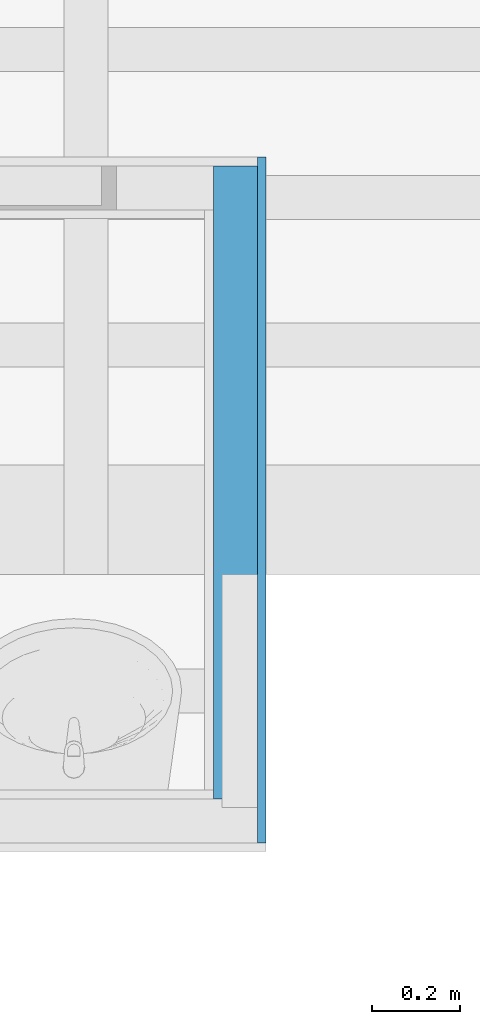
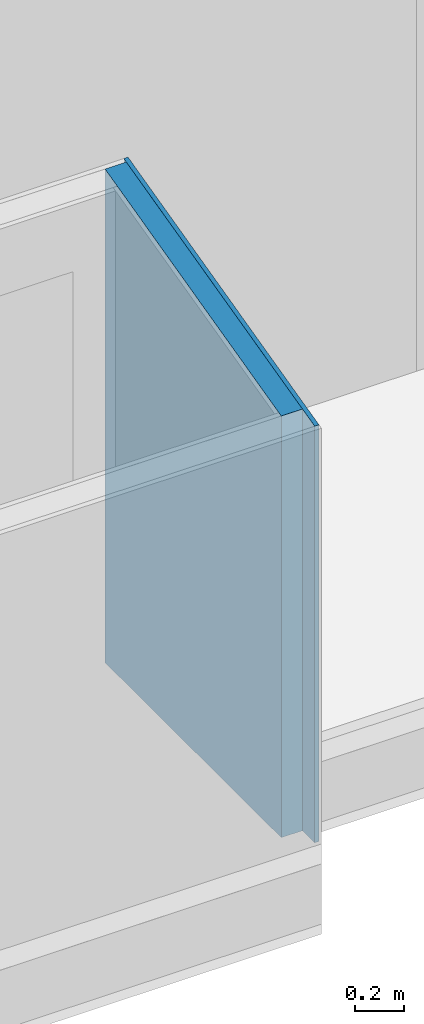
# One storey, part 7 of 13: 2 building element parts, 1 element without a shape of its own.
"""IFC2X3 building model written with IfcOpenShell, lengths in millimetres."""

from ifc_helpers import new_model, entity, si_unit, converted_unit, derived_unit, money_unit, direction, frame, origin_with_axes, place, context, subcontext, project, spatial, polyline, outline, extrude, boolean, faceted_brep, material, type_object, element, aggregate, save


model = new_model("IFC2X3")

# Units and contexts
model_context = context("Model", 3, precision=0.01, world=origin_with_axes(), true_north=direction((0.293984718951, 0.955810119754)))
body_context = subcontext(model_context, "Body", "Model", "MODEL_VIEW")
ifc_project = project(units=[si_unit("LENGTHUNIT", "METRE", prefix="MILLI"), si_unit("AREAUNIT", "SQUARE_METRE"), si_unit("VOLUMEUNIT", "CUBIC_METRE"), converted_unit("PLANEANGLEUNIT", "DEGREE", entity("IfcPlaneAngleMeasure", 0.0174532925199), si_unit("PLANEANGLEUNIT", "RADIAN"), dimensions=[0, 0, 0, 0, 0, 0, 0]), si_unit("SOLIDANGLEUNIT", "STERADIAN"), money_unit("USD"), converted_unit("TIMEUNIT", "Year", entity("IfcTimeMeasure", 31556926.0), si_unit("TIMEUNIT", "SECOND"), dimensions=[0, 0, 1, 0, 0, 0, 0]), si_unit("MASSUNIT", "GRAM", prefix="KILO"), si_unit("THERMODYNAMICTEMPERATUREUNIT", "DEGREE_CELSIUS"), si_unit("LUMINOUSINTENSITYUNIT", "LUMEN"), si_unit("ENERGYUNIT", "JOULE", prefix="MEGA"), derived_unit("THERMALCONDUCTANCEUNIT", [(si_unit("POWERUNIT", "WATT"), 1), (si_unit("LENGTHUNIT", "METRE"), -1), (si_unit("THERMODYNAMICTEMPERATUREUNIT", "KELVIN"), -1)]), derived_unit("SPECIFICHEATCAPACITYUNIT", [(si_unit("ENERGYUNIT", "JOULE"), 1), (si_unit("MASSUNIT", "GRAM", prefix="KILO"), -1), (si_unit("THERMODYNAMICTEMPERATUREUNIT", "KELVIN"), -1)]), derived_unit("MASSDENSITYUNIT", [(si_unit("MASSUNIT", "GRAM", prefix="KILO"), 1), (si_unit("VOLUMEUNIT", "CUBIC_METRE"), -1)])], contexts=[model_context])

# Site, building, storey
site_placement = place(None, origin_with_axes())
site = spatial("IfcSite", under=ifc_project, at=site_placement, Name="Local", CompositionType="ELEMENT")
building_placement = place(site_placement, origin_with_axes())
building = spatial("IfcBuilding", under=site, at=building_placement, Name="Construção", CompositionType="ELEMENT")
storey_placement = place(building_placement, frame((0.0, 0.0, 3050.0), z_axis=(0.0, 0.0, 1.0), x_axis=(1.0, 0.0, 0.0)))
storey = spatial("IfcBuildingStorey", under=building, at=storey_placement, Name="Primeiro Pavimento", CompositionType="ELEMENT", Elevation=3050.0)

# Wall, building element parts
wall_type = type_object("IfcWallType", Name="Alvenaria Tijolo Maciço com Revestimento 14cm 140", PredefinedType="NOTDEFINED")
wall_placement = place(storey_placement, frame((10759.6450727, 7730.63219788, 0.0), z_axis=(0.0, 0.0, 1.0), x_axis=(0.0, -1.0, 0.0)))
wall = element("IfcWall", 1, at=wall_placement, inside=storey, type_object=wall_type, Name="Parede")
ifc_material_1 = material(Name="Tijolo - Estrutural (1)")
building_element_part_1_placement = place(wall_placement, origin_with_axes())
building_element_part_1 = element("IfcBuildingElementPart", 2, at=building_element_part_1_placement, material=ifc_material_1, Name="Tijolo - Estrutural (1)", context=body_context, shape_type="CSG", body=[
    boolean("DIFFERENCE", boolean("DIFFERENCE", boolean("DIFFERENCE", extrude(outline(polyline([(-70.0000000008, -50.0), (1510.0, -50.0), (1510.0, 50.0), (-70.0000000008, 50.0), (-70.0000000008, -50.0)])), origin_with_axes(), (0.0, 0.0, 1.0), 3211.87314734), faceted_brep([(1370.0, -49.9999999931, 0.0), (1370.0, -49.9999999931, 2108.17928466), (49.9999999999, -49.9999999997, 2437.29224842), (49.9999999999, -49.9999999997, 0.0), (-70.0000000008, -50.0, 0.0), (-70.0000000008, -50.0, 3211.87314734), (1510.0, -50.0, 3211.87314734), (1510.0, -50.0, 0.0), (1370.0, -69.9999999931, 0.0), (1370.0, -69.9999999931, 2108.17928466), (50.0, -69.9999999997, 2437.29224842), (50.0, -69.9999999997, 0.0), (-70.0000000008, -70.0, 0.0), (-70.0000000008, -70.0, 3211.87314734), (1510.0, -70.0, 3211.87314734), (1510.0, -70.0, 0.0)], [[[0, 1, 2, 3, 4, 5, 6, 7]], [[1, 0, 8, 9]], [[9, 10, 2, 1]], [[3, 2, 10, 11]], [[3, 11, 12, 4]], [[5, 4, 12, 13]], [[5, 13, 14, 6]], [[14, 15, 7, 6]], [[8, 0, 7, 15]], [[9, 8, 15, 14, 13, 12, 11, 10]]])), faceted_brep([(1390.0, 50.000000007, 0.0), (1390.0, 50.000000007, 2103.19272461), (-50.0000000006, 49.9999999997, 2462.2250487), (-50.0000000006, 49.9999999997, 0.0), (-70.0000000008, 50.0, 0.0), (-70.0000000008, 50.0, 3211.87314734), (1510.0, 50.0, 3211.87314734), (1510.0, 50.0, 0.0), (1390.0, -49.999999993, 0.0), (1390.0, -49.999999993, 2103.19272461), (-50.0000000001, -50.0000000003, 2462.2250487), (-50.0000000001, -50.0000000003, 0.0), (-70.0000000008, -50.0, 0.0), (-70.0000000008, -50.0, 3211.87314734), (1510.0, -50.0, 3211.87314734), (1510.0, -50.0, 0.0)], [[[0, 1, 2, 3, 4, 5, 6, 7]], [[1, 0, 8, 9]], [[10, 2, 1, 9]], [[3, 2, 10, 11]], [[3, 11, 12, 4]], [[5, 4, 12, 13]], [[5, 13, 14, 6]], [[14, 15, 7, 6]], [[8, 0, 7, 15]], [[9, 8, 15, 14, 13, 12, 11, 10]]])), faceted_brep([(1490.0, 70.0000000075, 0.0), (1490.0, 70.0000000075, 2078.25992432), (-70.0000000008, 69.9999999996, 2467.21160876), (-70.0000000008, 70.0, 3211.87314734), (1510.0, 70.0, 3211.87314734), (1510.0, 70.0, 0.0), (1490.0, 50.0000000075, 0.0), (1490.0, 50.0000000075, 2078.25992432), (-70.0000000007, 49.9999999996, 2467.21160876), (-70.0000000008, 50.0, 3211.87314734), (1510.0, 50.0, 3211.87314734), (1510.0, 50.0, 0.0)], [[[0, 1, 2, 3, 4, 5]], [[1, 0, 6, 7]], [[8, 2, 1, 7]], [[2, 8, 9, 3]], [[3, 9, 10, 4]], [[10, 11, 5, 4]], [[6, 0, 5, 11]], [[7, 6, 11, 10, 9, 8]]])),
])
ifc_material_2 = material(Name="Reboco (1)")
building_element_part_2_placement = place(wall_placement, origin_with_axes())
building_element_part_2 = element("IfcBuildingElementPart", 3, at=building_element_part_2_placement, material=ifc_material_2, Name="Reboco (1)", context=body_context, shape_type="CSG", body=[
    boolean("DIFFERENCE", boolean("DIFFERENCE", boolean("DIFFERENCE", extrude(outline(polyline([(-70.0000000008, 50.0), (1510.0, 50.0), (1510.0, 70.0), (-70.0000000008, 70.0), (-70.0000000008, 50.0)])), origin_with_axes(), (0.0, 0.0, 1.0), 3211.87314734), faceted_brep([(1370.0, -49.9999999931, 0.0), (1370.0, -49.9999999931, 2108.17928466), (49.9999999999, -49.9999999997, 2437.29224842), (49.9999999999, -49.9999999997, 0.0), (-70.0000000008, -50.0, 0.0), (-70.0000000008, -50.0, 3211.87314734), (1510.0, -50.0, 3211.87314734), (1510.0, -50.0, 0.0), (1370.0, -69.9999999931, 0.0), (1370.0, -69.9999999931, 2108.17928466), (50.0, -69.9999999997, 2437.29224842), (50.0, -69.9999999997, 0.0), (-70.0000000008, -70.0, 0.0), (-70.0000000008, -70.0, 3211.87314734), (1510.0, -70.0, 3211.87314734), (1510.0, -70.0, 0.0)], [[[0, 1, 2, 3, 4, 5, 6, 7]], [[1, 0, 8, 9]], [[9, 10, 2, 1]], [[3, 2, 10, 11]], [[3, 11, 12, 4]], [[5, 4, 12, 13]], [[5, 13, 14, 6]], [[14, 15, 7, 6]], [[8, 0, 7, 15]], [[9, 8, 15, 14, 13, 12, 11, 10]]])), faceted_brep([(1390.0, 50.000000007, 0.0), (1390.0, 50.000000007, 2103.19272461), (-50.0000000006, 49.9999999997, 2462.2250487), (-50.0000000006, 49.9999999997, 0.0), (-70.0000000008, 50.0, 0.0), (-70.0000000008, 50.0, 3211.87314734), (1510.0, 50.0, 3211.87314734), (1510.0, 50.0, 0.0), (1390.0, -49.999999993, 0.0), (1390.0, -49.999999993, 2103.19272461), (-50.0000000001, -50.0000000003, 2462.2250487), (-50.0000000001, -50.0000000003, 0.0), (-70.0000000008, -50.0, 0.0), (-70.0000000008, -50.0, 3211.87314734), (1510.0, -50.0, 3211.87314734), (1510.0, -50.0, 0.0)], [[[0, 1, 2, 3, 4, 5, 6, 7]], [[1, 0, 8, 9]], [[10, 2, 1, 9]], [[3, 2, 10, 11]], [[3, 11, 12, 4]], [[5, 4, 12, 13]], [[5, 13, 14, 6]], [[14, 15, 7, 6]], [[8, 0, 7, 15]], [[9, 8, 15, 14, 13, 12, 11, 10]]])), faceted_brep([(1490.0, 70.0000000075, 0.0), (1490.0, 70.0000000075, 2078.25992432), (-70.0000000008, 69.9999999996, 2467.21160876), (-70.0000000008, 70.0, 3211.87314734), (1510.0, 70.0, 3211.87314734), (1510.0, 70.0, 0.0), (1490.0, 50.0000000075, 0.0), (1490.0, 50.0000000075, 2078.25992432), (-70.0000000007, 49.9999999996, 2467.21160876), (-70.0000000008, 50.0, 3211.87314734), (1510.0, 50.0, 3211.87314734), (1510.0, 50.0, 0.0)], [[[0, 1, 2, 3, 4, 5]], [[1, 0, 6, 7]], [[8, 2, 1, 7]], [[2, 8, 9, 3]], [[3, 9, 10, 4]], [[10, 11, 5, 4]], [[6, 0, 5, 11]], [[7, 6, 11, 10, 9, 8]]])),
])
aggregate(wall, [building_element_part_1, building_element_part_2])

save(model, "model.ifc")
